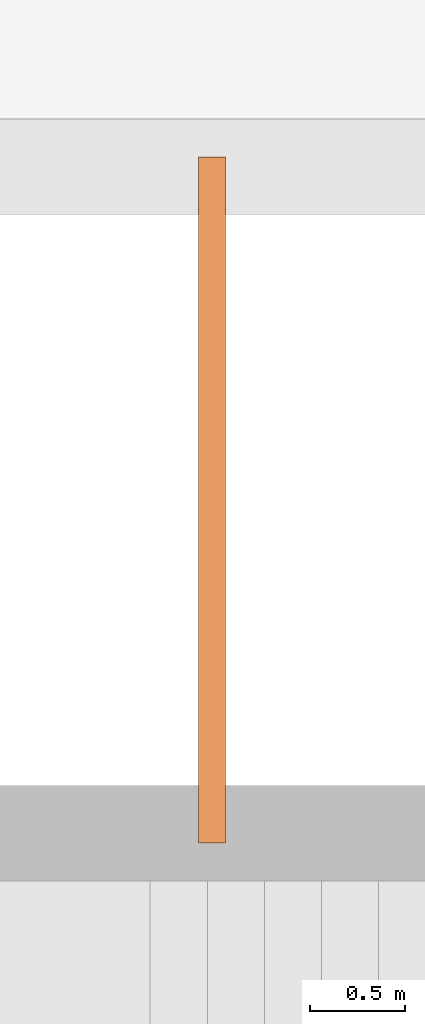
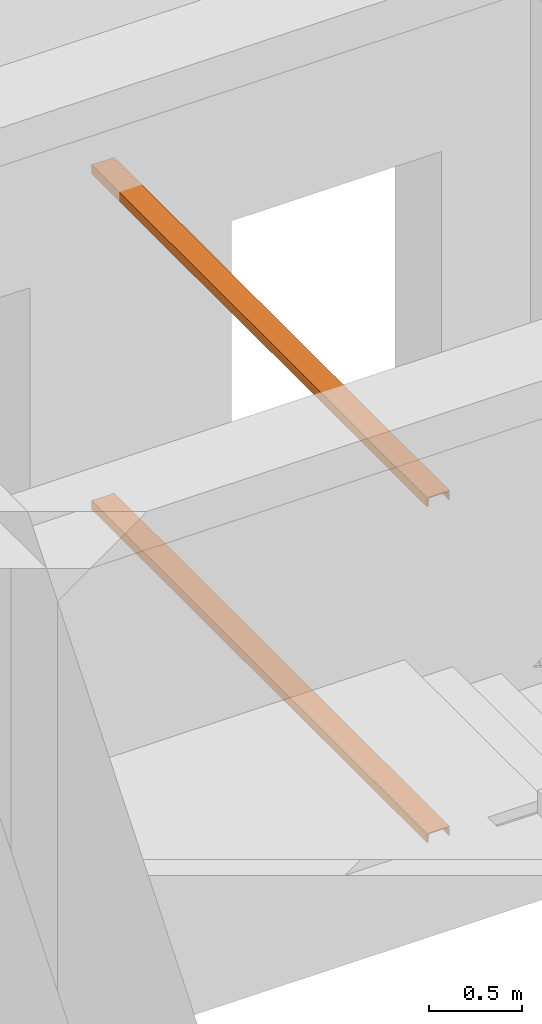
# One storey, part 26 of 27: 2 proxies.
"""IFC4 building model written with IfcOpenShell, lengths in metres."""

from ifc_helpers import new_model, entity, si_unit, converted_unit, derived_unit, frame, origin, origin_with_axes, place, context, subcontext, project, spatial, faceted_brep, source, transform, mapped, material, element, save


model = new_model("IFC4")

# Units and contexts
model_context = context("Model", 3, precision=1e-05, world=origin())
body_context = subcontext(model_context, "Body", "Model", "MODEL_VIEW")
ifc_project = project(units=[si_unit("LENGTHUNIT", "METRE"), si_unit("AREAUNIT", "SQUARE_METRE"), si_unit("VOLUMEUNIT", "CUBIC_METRE"), si_unit("MASSUNIT", "GRAM", prefix="KILO"), converted_unit("PLANEANGLEUNIT", "DEGREE", entity("IfcPlaneAngleMeasure", 0.0174532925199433), si_unit("PLANEANGLEUNIT", "RADIAN"), dimensions=[0, 0, 0, 0, 0, 0, 0]), derived_unit("THERMALTRANSMITTANCEUNIT", [(si_unit("POWERUNIT", "WATT"), 1), (si_unit("THERMODYNAMICTEMPERATUREUNIT", "KELVIN"), -1), (si_unit("LENGTHUNIT", "METRE"), -2)]), derived_unit("VOLUMETRICFLOWRATEUNIT", [(si_unit("LENGTHUNIT", "METRE"), 3), (converted_unit("TIMEUNIT", "hour", entity("IfcTimeMeasure", 3600.0), si_unit("TIMEUNIT", "SECOND"), dimensions=[0, 0, 1, 0, 0, 0, 0]), -1), (si_unit("LENGTHUNIT", "METRE"), -1)])], contexts=[model_context])

# Site, building, storey
site_placement = place(None, origin())
site = spatial("IfcSite", under=ifc_project, at=site_placement, Name="3. ASŘ", CompositionType="ELEMENT")
building_placement = place(site_placement, origin())
building = spatial("IfcBuilding", under=site, at=building_placement, Name="Pavilon C", CompositionType="ELEMENT")
storey_placement = place(building_placement, frame((0.0, 0.0, 7.2)))
storey = spatial("IfcBuildingStorey", under=building, at=storey_placement, Name="Půdorys 3.NP", CompositionType="ELEMENT", Elevation=7.2)

# Proxies
ifc_material_1 = material(Name="U 140")
shared_shape = source(origin_with_axes(), body_context, "Body", "Brep", [
    faceted_brep([(7.105427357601e-18, 0.0, 0.0), (0.06, 0.0, 0.0), (0.06, 0.14, 0.0), (7.105427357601e-18, 0.14, 0.0), (0.0, 0.137015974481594, 0.0), (0.000220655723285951, 0.135547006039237, 0.0), (0.000863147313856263, 0.134207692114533, 0.0), (0.00187076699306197, 0.133116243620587, 0.0), (0.00315457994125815, 0.132368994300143, 0.0), (0.00460127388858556, 0.132031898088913, 0.0), (0.0437974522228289, 0.128896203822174, 0.0), (0.0466908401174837, 0.128222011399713, 0.0), (0.0492584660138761, 0.126727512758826, 0.0), (0.0512737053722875, 0.124544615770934, 0.0), (0.0525586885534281, 0.121865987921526, 0.0), (0.053, 0.118928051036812, 0.0), (0.053, 0.0210719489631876, 0.0), (0.0525586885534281, 0.0181340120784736, 0.0), (0.0512737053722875, 0.0154553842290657, 0.0), (0.0492584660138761, 0.0132724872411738, 0.0), (0.0466908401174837, 0.0117779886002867, 0.0), (0.0437974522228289, 0.0111037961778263, 0.0), (0.00460127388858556, 0.00796810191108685, 0.0), (0.00315457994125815, 0.00763100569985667, 0.0), (0.00187076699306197, 0.00688375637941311, 0.0), (0.000863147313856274, 0.00579230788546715, 0.0), (0.000220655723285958, 0.00445299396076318, 0.0), (7.105427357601e-18, 0.00298402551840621, 0.0), (0.06, 0.0, 3.6), (7.105427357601e-18, 0.0, 3.6), (7.105427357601e-18, 0.00298402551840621, 3.6), (0.000220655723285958, 0.00445299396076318, 3.6), (0.000863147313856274, 0.00579230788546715, 3.6), (0.00187076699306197, 0.00688375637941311, 3.6), (0.00315457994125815, 0.00763100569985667, 3.6), (0.00460127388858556, 0.00796810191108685, 3.6), (0.0437974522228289, 0.0111037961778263, 3.6), (0.0466908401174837, 0.0117779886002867, 3.6), (0.0492584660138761, 0.0132724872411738, 3.6), (0.0512737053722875, 0.0154553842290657, 3.6), (0.0525586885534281, 0.0181340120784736, 3.6), (0.053, 0.0210719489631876, 3.6), (0.053, 0.118928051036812, 3.6), (0.0525586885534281, 0.121865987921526, 3.6), (0.0512737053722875, 0.124544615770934, 3.6), (0.0492584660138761, 0.126727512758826, 3.6), (0.0466908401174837, 0.128222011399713, 3.6), (0.0437974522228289, 0.128896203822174, 3.6), (0.00460127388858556, 0.132031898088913, 3.6), (0.00315457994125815, 0.132368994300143, 3.6), (0.00187076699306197, 0.133116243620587, 3.6), (0.000863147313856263, 0.134207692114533, 3.6), (0.000220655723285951, 0.135547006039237, 3.6), (0.0, 0.137015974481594, 3.6), (7.105427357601e-18, 0.14, 3.6), (0.06, 0.14, 3.6)], [[[0, 1, 2, 3, 4, 5, 6, 7, 8, 9, 10, 11, 12, 13, 14, 15, 16, 17, 18, 19, 20, 21, 22, 23, 24, 25, 26, 27]], [[28, 29, 30, 31, 32, 33, 34, 35, 36, 37, 38, 39, 40, 41, 42, 43, 44, 45, 46, 47, 48, 49, 50, 51, 52, 53, 54, 55]], [[1, 0, 29, 28]], [[2, 1, 28, 55]], [[3, 2, 55, 54]], [[4, 3, 54, 53]], [[5, 4, 53, 52]], [[6, 5, 52, 51]], [[7, 6, 51, 50]], [[8, 7, 50, 49]], [[9, 8, 49, 48]], [[10, 9, 48, 47]], [[11, 10, 47, 46]], [[12, 11, 46, 45]], [[13, 12, 45, 44]], [[14, 13, 44, 43]], [[15, 14, 43, 42]], [[16, 15, 42, 41]], [[17, 16, 41, 40]], [[18, 17, 40, 39]], [[19, 18, 39, 38]], [[20, 19, 38, 37]], [[21, 20, 37, 36]], [[22, 21, 36, 35]], [[23, 22, 35, 34]], [[24, 23, 34, 33]], [[25, 24, 33, 32]], [[26, 25, 32, 31]], [[27, 26, 31, 30]], [[0, 27, 30, 29]]], orient=[[False], [False], [False], [False], [False], [False], [False], [False], [False], [False], [False], [False], [False], [False], [False], [False], [False], [False], [False], [False], [False], [False], [False], [False], [False], [False], [False], [False], [False], [False]]),
])
proxy_1_placement = place(storey_placement, frame((-6.52999999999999, 7.75, -0.06), z_axis=(-1.22464679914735e-16, -1.0, -2.44929359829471e-16), x_axis=(-5.34329236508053e-33, -2.44929359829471e-16, 1.0)))
element("IfcBuildingElementProxy", 1, at=proxy_1_placement, inside=storey, material=ifc_material_1, Name="Ocelový profil", context=body_context, shape_type="MappedRepresentation", body=[
    mapped(shared_shape, transform((0.0, 0.0, 0.0), x_axis=(1.0, 0.0, 0.0), y_axis=(0.0, 1.0, 0.0), z_axis=(0.0, 0.0, 1.0), scale=1.0)),
])
ifc_material_2 = material(Name="U 140")
proxy_2_placement = place(storey_placement, frame((-6.52999999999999, 7.75, 2.14), z_axis=(-1.22464679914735e-16, -1.0, -2.44929359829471e-16), x_axis=(-5.34329236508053e-33, -2.44929359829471e-16, 1.0)))
element("IfcBuildingElementProxy", 2, at=proxy_2_placement, inside=storey, material=ifc_material_2, Name="Ocelový profil", context=body_context, shape_type="MappedRepresentation", body=[
    mapped(shared_shape, transform((0.0, 0.0, 0.0), x_axis=(1.0, 0.0, 0.0), y_axis=(0.0, 1.0, 0.0), z_axis=(0.0, 0.0, 1.0), scale=1.0)),
])

save(model, "model.ifc")
